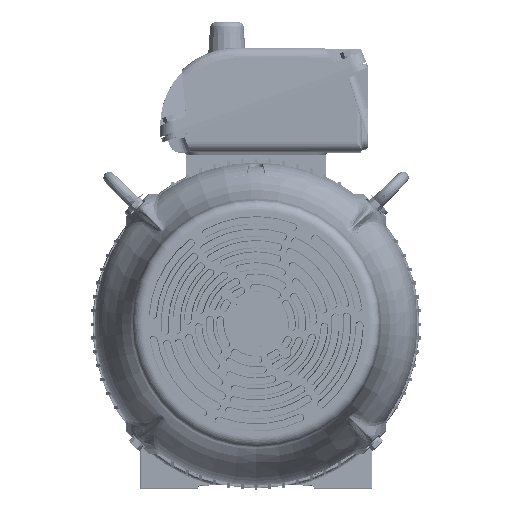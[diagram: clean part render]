
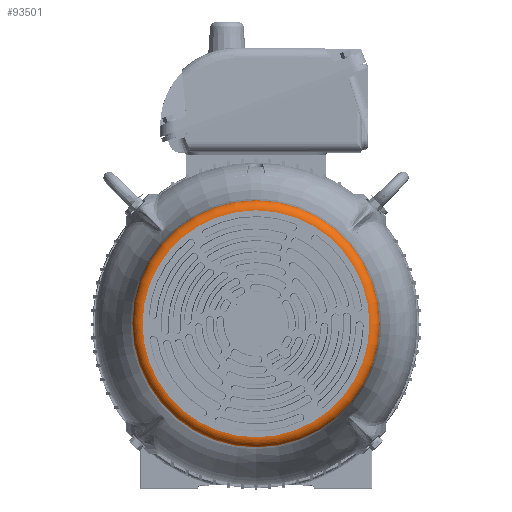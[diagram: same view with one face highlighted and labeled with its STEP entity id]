
A CAD part, top view. The second image highlights one B-rep face of the part: STEP entity #93501.
In plain terms, the highlighted toroidal (fillet/blend) face has major radius 156 mm and minor radius 14 mm.
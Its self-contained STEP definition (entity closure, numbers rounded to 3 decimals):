
#10862=TOROIDAL_SURFACE('',#101367,156.,14.);
#17402=FACE_OUTER_BOUND('',#22934,.T.);
#22934=EDGE_LOOP('',(#81760,#81761,#81762,#81763,#81764,#81765));
#38270=CIRCLE('',#101368,170.);
#38271=CIRCLE('',#101369,170.);
#38272=CIRCLE('',#101370,14.);
#38273=CIRCLE('',#101371,156.);
#38274=CIRCLE('',#101372,156.);
#46130=VERTEX_POINT('',#201057);
#46131=VERTEX_POINT('',#201058);
#46132=VERTEX_POINT('',#201061);
#46133=VERTEX_POINT('',#201063);
#58458=EDGE_CURVE('',#46130,#46131,#38270,.T.);
#58459=EDGE_CURVE('',#46131,#46130,#38271,.T.);
#58460=EDGE_CURVE('',#46131,#46132,#38272,.T.);
#58461=EDGE_CURVE('',#46132,#46133,#38273,.T.);
#58462=EDGE_CURVE('',#46133,#46132,#38274,.T.);
#81760=ORIENTED_EDGE('',*,*,#58458,.F.);
#81761=ORIENTED_EDGE('',*,*,#58459,.F.);
#81762=ORIENTED_EDGE('',*,*,#58460,.T.);
#81763=ORIENTED_EDGE('',*,*,#58461,.T.);
#81764=ORIENTED_EDGE('',*,*,#58462,.T.);
#81765=ORIENTED_EDGE('',*,*,#58460,.F.);
#93501=ADVANCED_FACE('',(#17402),#10862,.T.);
#101367=AXIS2_PLACEMENT_3D('',#201056,#120716,#120717);
#101368=AXIS2_PLACEMENT_3D('',#201059,#120718,#120719);
#101369=AXIS2_PLACEMENT_3D('',#201060,#120720,#120721);
#101370=AXIS2_PLACEMENT_3D('',#201062,#120722,#120723);
#101371=AXIS2_PLACEMENT_3D('',#201064,#120724,#120725);
#101372=AXIS2_PLACEMENT_3D('',#201065,#120726,#120727);
#120716=DIRECTION('center_axis',(0.,0.,
-1.));
#120717=DIRECTION('ref_axis',(0.,1.,0.));
#120718=DIRECTION('center_axis',(0.,0.,
-1.));
#120719=DIRECTION('ref_axis',(0.,1.,0.));
#120720=DIRECTION('center_axis',(0.,0.,
-1.));
#120721=DIRECTION('ref_axis',(0.,1.,0.));
#120722=DIRECTION('center_axis',(-1.,0.,0.));
#120723=DIRECTION('ref_axis',(0.,-1.,0.));
#120724=DIRECTION('center_axis',(0.,0.,
-1.));
#120725=DIRECTION('ref_axis',(0.,1.,0.));
#120726=DIRECTION('center_axis',(0.,0.,
-1.));
#120727=DIRECTION('ref_axis',(0.,1.,0.));
#201056=CARTESIAN_POINT('Origin',(0.,0.,
882.764));
#201057=CARTESIAN_POINT('',(0.,170.,882.764));
#201058=CARTESIAN_POINT('',(0.,-170.,882.764));
#201059=CARTESIAN_POINT('Origin',(0.,0.,
882.764));
#201060=CARTESIAN_POINT('Origin',(0.,0.,
882.764));
#201061=CARTESIAN_POINT('',(0.,-156.,896.764));
#201062=CARTESIAN_POINT('Origin',(0.,-156.,
882.764));
#201063=CARTESIAN_POINT('',(0.,156.,896.764));
#201064=CARTESIAN_POINT('Origin',(0.,0.,
896.764));
#201065=CARTESIAN_POINT('Origin',(0.,0.,
896.764));
